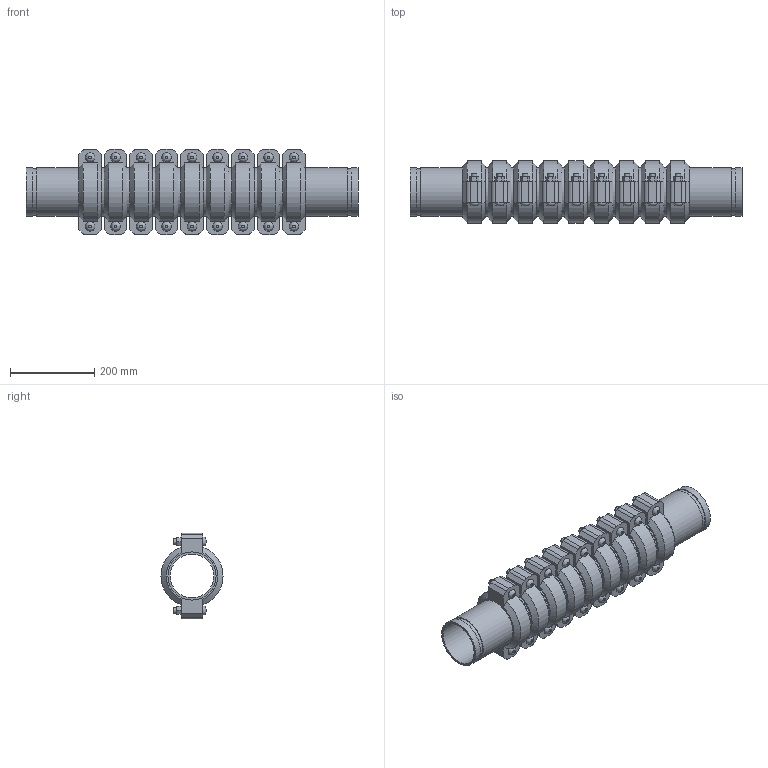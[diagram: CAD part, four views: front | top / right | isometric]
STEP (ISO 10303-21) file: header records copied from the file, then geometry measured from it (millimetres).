
FILE_DESCRIPTION(/* description */ ('VIC SS EXPANSION JOINT 9 COUPLINGS COMPRESSED STYLE 155P (OGS) (POTABLE WATER) ','CAx-IF Rec.Pracs.---Representation and Presentation of Product Manufacturing Information (PMI)---4.0---2014-10-13'),/* implementation_level */ '2;1');
FILE_NAME(/* name */ 'C:\Users\kkamble\AppData\Roaming\Autodesk\ApplicationPlugins\Victaulic.Temp\A693\Victaulic_SS_Expansion Joint_Compressed_9 Couplings_Style 155P (OGS)-Potable Water_9 Coup_Comp_4 (100).stp',/* time_stamp */ '2021-07-16T17:18:38+06:00',/* author */ ('kkamble'),/* organization */ ('Victaulic'),/* preprocessor_version */ 'ST-DEVELOPER v17.2',/* originating_system */ 'Autodesk Inventor 2019',/* authorisation */ '');
FILE_SCHEMA (('AP242_MANAGED_MODEL_BASED_3D_ENGINEERING_MIM_LF { 1 0 10303 442 1 1 4 }'));
Length unit declared in the file: inch
Products named in the file (4): 155P-04.0; Nipple-04.0; Nipple-04.0_1; 075-04.0
Assembly tree (19 placements, depth 2):
  155P-04.0
    Nipple-04.0  x2
    Nipple-04.0_1  x8
    075-04.0  x9
Bounding box: 787.65 x 147.32 x 203.96 mm (x, y, z)
Volume: 5568439.2 mm3; surface area: 1285119.3 mm2
Topology: 19 solids, 37 shells, 597 faces, 1443 edges, 1014 vertices
Faces by surface type: plane 366, cylinder 177, cone 36, bspline 18
Full cylindrical faces by diameter (mm): 12.7 x36, 14.605 x18, 103.988 x10, 110.084 x20, 114.3 x39
Entity records: 2753 total; most frequent: CARTESIAN_POINT 489, DIRECTION 463, ORIENTED_EDGE 374, EDGE_CURVE 187, AXIS2_PLACEMENT_3D 186, VERTEX_POINT 134, EDGE_LOOP 101, LINE 91
